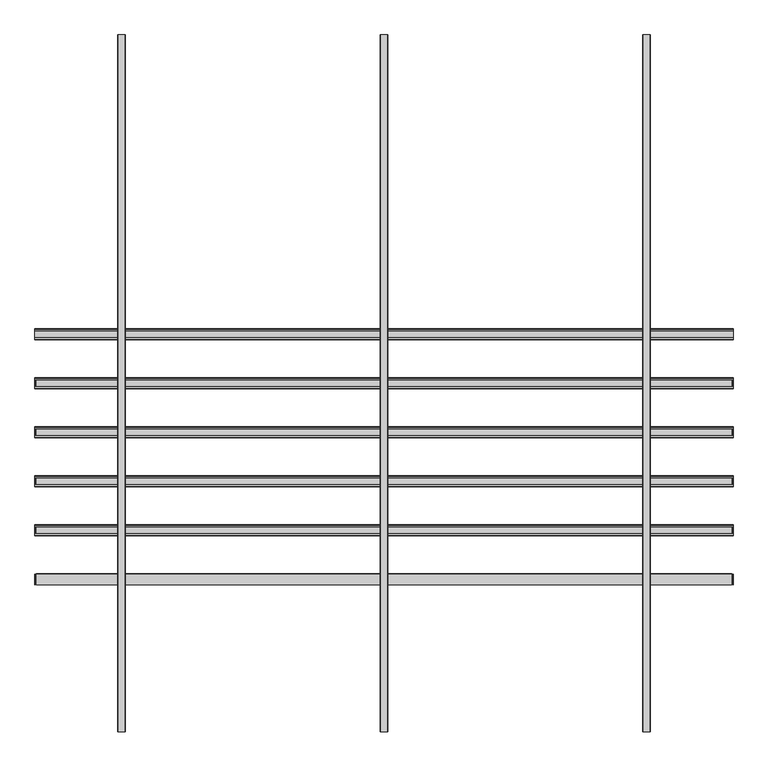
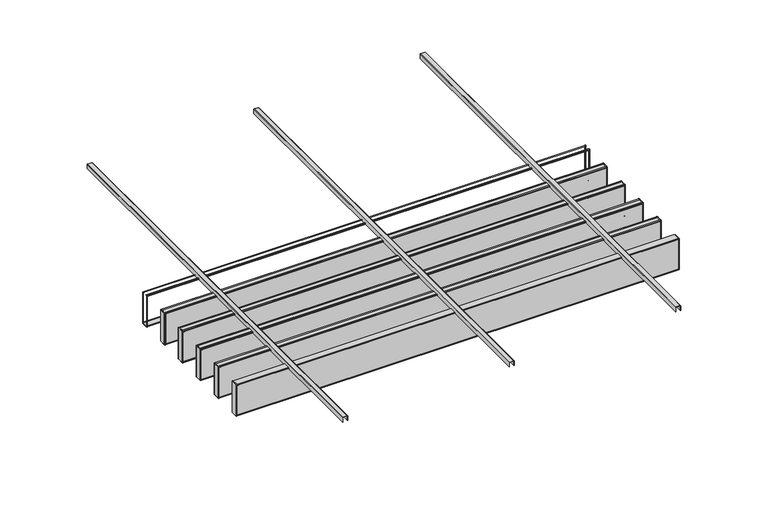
"""IFC4 building model written with IfcOpenShell, lengths in millimetres: proxy geometry, durlum_POLYLAM : durlum_POLYLAM 63 RV-L6."""

from ifc_helpers import new_model, si_unit, point, frame, frame_2d, origin, place, context, project, spatial, polyline, circle_curve, trimmed, segment, composite_curve, outline, extrude, source, transform, mapped, element, save
from ifc_brep_helpers import plane_surface, cylinder_surface, advanced_brep


def generic_models_e9b2db04(model_context):
    return source(origin(), model_context, "Body", "SolidModel", [
        advanced_brep(
        [(1995.0, 309.5, 2016.9), (1995.0, 299.5, 2016.9), (1995.0, 299.5, 2015.9), (1995.0, 310.5, 2015.9), (1995.0, 310.5, 1717.9), (1995.0, 249.5, 1717.9), (1995.0, 249.5, 2015.8155735), (1995.0, 260.5, 2015.8155735), (1995.0, 260.5, 2016.9), (1995.0, 250.5, 2016.9), (1995.0, 248.5, 2014.9), (1995.0, 248.5, 1718.9), (1995.0, 250.5, 1716.9), (1995.0, 309.5, 1716.9), (1995.0, 311.5, 1718.9), (1995.0, 311.5, 2014.9), (-1995.0, 309.5, 2016.9), (-1995.0, 311.5, 2014.9), (-1995.0, 311.5, 1718.9), (-1995.0, 309.5, 1716.9), (-1995.0, 250.5, 1716.9), (-1995.0, 248.5, 1718.9), (-1995.0, 248.5, 2014.9), (-1995.0, 250.5, 2016.9), (-1995.0, 260.5, 2016.9), (-1995.0, 260.5, 2015.8155735), (-1995.0, 249.5, 2015.8155735), (-1995.0, 249.5, 1717.9), (-1995.0, 310.5, 1717.9), (-1995.0, 310.5, 2015.9), (-1995.0, 299.5, 2015.9), (-1995.0, 299.5, 2016.9), (-1986.5, 310.5, 2008.4), (1986.5, 310.5, 2008.4), (1986.5, 310.5, 1725.4), (-1986.5, 310.5, 1725.4), (1986.5, 249.5, 2008.4), (-1986.5, 249.5, 2008.4), (-1986.5, 249.5, 1725.4), (1986.5, 249.5, 1725.4), (-1986.5, 248.5, 2008.4), (1986.5, 248.5, 2008.4), (1986.5, 248.5, 1725.4), (-1986.5, 248.5, 1725.4), (1986.5, 311.5, 2008.4), (-1986.5, 311.5, 2008.4), (-1986.5, 311.5, 1725.4), (1986.5, 311.5, 1725.4)],
        [
            (0, 1),
            (1, 2),
            (2, 3),
            (3, 4),
            (4, 5),
            (5, 6),
            (6, 7),
            (7, 8),
            (8, 9),
            (9, 10, circle_curve(frame((1995.0, 250.5, 2014.9), z_axis=(1.0, 0.0, 0.0), x_axis=(0.0, 1.0, 0.0)), 2.0)),
            (10, 11),
            (11, 12, circle_curve(frame((1995.0, 250.5, 1718.9), z_axis=(1.0, 0.0, 0.0), x_axis=(0.0, 1.0, 0.0)), 2.0)),
            (12, 13),
            (13, 14, circle_curve(frame((1995.0, 309.5, 1718.9), z_axis=(1.0, 0.0, 0.0), x_axis=(0.0, 1.0, 0.0)), 2.0)),
            (14, 15),
            (15, 0, circle_curve(frame((1995.0, 309.5, 2014.9), z_axis=(1.0, 0.0, 0.0), x_axis=(0.0, 1.0, 0.0)), 2.0)),
            (16, 17, circle_curve(frame((-1995.0, 309.5, 2014.9), z_axis=(-1.0, 0.0, 0.0), x_axis=(0.0, 1.0, 0.0)), 2.0)),
            (17, 18),
            (18, 19, circle_curve(frame((-1995.0, 309.5, 1718.9), z_axis=(-1.0, 0.0, 0.0), x_axis=(0.0, 1.0, 0.0)), 2.0)),
            (19, 20),
            (20, 21, circle_curve(frame((-1995.0, 250.5, 1718.9), z_axis=(-1.0, 0.0, 0.0), x_axis=(0.0, 1.0, 0.0)), 2.0)),
            (21, 22),
            (22, 23, circle_curve(frame((-1995.0, 250.5, 2014.9), z_axis=(-1.0, 0.0, 0.0), x_axis=(0.0, 1.0, 0.0)), 2.0)),
            (23, 24),
            (24, 25),
            (25, 26),
            (26, 27),
            (27, 28),
            (28, 29),
            (29, 30),
            (30, 31),
            (31, 16),
            (0, 16),
            (31, 1),
            (30, 2),
            (29, 3),
            (28, 4),
            (32, 33),
            (33, 34),
            (34, 35),
            (35, 32),
            (27, 5),
            (26, 6),
            (36, 37),
            (37, 38),
            (38, 39),
            (39, 36),
            (25, 7),
            (24, 8),
            (23, 9),
            (10, 22),
            (21, 11),
            (40, 41),
            (41, 42),
            (42, 43),
            (43, 40),
            (12, 20),
            (19, 13),
            (14, 18),
            (17, 15),
            (44, 45),
            (45, 46),
            (46, 47),
            (47, 44),
            (44, 33),
            (32, 45),
            (36, 41),
            (40, 37),
            (35, 46),
            (43, 38),
            (34, 47),
            (42, 39),
        ],
        [
            plane_surface(frame((1995.0, 299.5, 2016.9), z_axis=(1.0, 0.0, 0.0), x_axis=(0.0, -1.0, 0.0))),
            plane_surface(frame((-1995.0, 299.5, 2016.9), z_axis=(-1.0, 0.0, 0.0), x_axis=(0.0, 1.0, 0.0))),
            plane_surface(frame((1995.0, 309.5, 2016.9), z_axis=(0.0, 0.0, 1.0), x_axis=(-1.0, 0.0, 0.0))),
            plane_surface(frame((1995.0, 299.5, 2016.9), z_axis=(0.0, -1.0, 0.0), x_axis=(-1.0, 0.0, 0.0))),
            plane_surface(frame((1995.0, 299.5, 2015.9), z_axis=(0.0, 0.0, -1.0), x_axis=(-1.0, 0.0, 0.0))),
            plane_surface(frame((1995.0, 310.5, 2015.9), z_axis=(0.0, -1.0, 0.0), x_axis=(-1.0, 0.0, 0.0))),
            plane_surface(frame((1995.0, 310.5, 1717.9), z_axis=(0.0, 0.0, 1.0), x_axis=(-1.0, 0.0, 0.0))),
            plane_surface(frame((1995.0, 249.5, 1717.9), z_axis=(0.0, 1.0, 0.0), x_axis=(-1.0, 0.0, 0.0))),
            plane_surface(frame((1995.0, 249.5, 2015.8155735), z_axis=(0.0, 0.0, -1.0), x_axis=(-1.0, 0.0, 0.0))),
            plane_surface(frame((1995.0, 260.5, 2015.8155735), z_axis=(0.0, 1.0, 0.0), x_axis=(-1.0, 0.0, 0.0))),
            plane_surface(frame((1995.0, 260.5, 2016.9), z_axis=(0.0, 0.0, 1.0), x_axis=(-1.0, 0.0, 0.0))),
            plane_surface(frame((1995.0, 248.5, 2014.9), z_axis=(0.0, -1.0, 0.0), x_axis=(-1.0, 0.0, 0.0))),
            plane_surface(frame((1995.0, 250.5, 1716.9), z_axis=(0.0, 0.0, -1.0), x_axis=(-1.0, 0.0, 0.0))),
            plane_surface(frame((1995.0, 311.5, 1718.9), z_axis=(0.0, 1.0, 0.0), x_axis=(-1.0, 0.0, 0.0))),
            cylinder_surface(frame((-1995.0, 250.5, 2014.9), z_axis=(1.0, 0.0, 0.0), x_axis=(0.0, 1.0, 0.0)), 2.0),
            cylinder_surface(frame((-1995.0, 250.5, 1718.9), z_axis=(1.0, 0.0, 0.0), x_axis=(0.0, 1.0, 0.0)), 2.0),
            cylinder_surface(frame((-1995.0, 309.5, 1718.9), z_axis=(1.0, 0.0, 0.0), x_axis=(0.0, 1.0, 0.0)), 2.0),
            cylinder_surface(frame((-1995.0, 309.5, 2014.9), z_axis=(1.0, 0.0, 0.0), x_axis=(0.0, 1.0, 0.0)), 2.0),
            plane_surface(frame((1986.5, 248.5, 2008.4), z_axis=(0.0, 0.0, -1.0), x_axis=(0.0, 1.0, 0.0))),
            plane_surface(frame((-1986.5, 248.5, 2008.4), z_axis=(1.0, 0.0, 0.0), x_axis=(0.0, 1.0, 0.0))),
            plane_surface(frame((-1986.5, 248.5, 1725.4), z_axis=(0.0, 0.0, 1.0), x_axis=(0.0, 1.0, 0.0))),
            plane_surface(frame((1986.5, 248.5, 1725.4), z_axis=(-1.0, 0.0, 0.0), x_axis=(0.0, 1.0, 0.0))),
        ],
        [
            (0, [[1, 2, 3, 4, 5, 6, 7, 8, 9, 10, 11, 12, 13, 14, 15, 16]]),
            (1, [[17, 18, 19, 20, 21, 22, 23, 24, 25, 26, 27, 28, 29, 30, 31, 32]]),
            (2, [[-1, 33, -32, 34]]),
            (3, [[-2, -34, -31, 35]]),
            (4, [[-3, -35, -30, 36]]),
            (5, [[-4, -36, -29, 37], [38, 39, 40, 41]]),
            (6, [[-5, -37, -28, 42]]),
            (7, [[-6, -42, -27, 43], [44, 45, 46, 47]]),
            (8, [[-7, -43, -26, 48]]),
            (9, [[-8, -48, -25, 49]]),
            (10, [[-9, -49, -24, 50]]),
            (11, [[-11, 51, -22, 52], [53, 54, 55, 56]]),
            (12, [[-13, 57, -20, 58]]),
            (13, [[-15, 59, -18, 60], [61, 62, 63, 64]]),
            (14, [[-10, -50, -23, -51]]),
            (15, [[-12, -52, -21, -57]]),
            (16, [[-14, -58, -19, -59]]),
            (17, [[-16, -60, -17, -33]]),
            (18, [[65, -38, 66, -61]]),
            (18, [[67, -53, 68, -44]]),
            (19, [[-66, -41, 69, -62]]),
            (19, [[-68, -56, 70, -45]]),
            (20, [[-69, -40, 71, -63]]),
            (20, [[-70, -55, 72, -46]]),
            (21, [[-65, -64, -71, -39]]),
            (21, [[-67, -47, -72, -54]]),
        ],
    ),
        extrude(outline(composite_curve([segment(polyline([(2005.0, 22.5), (2047.0, 22.5)]), True, "CONTINUOUS"), segment(trimmed(circle_curve(frame_2d((2047.0, 19.5)), 3.0), [point((2047.0, 22.5))], [point((2050.0, 19.5))], False, "CARTESIAN"), True, "CONTINUOUS"), segment(polyline([(2050.0, 19.5), (2050.0, -19.5)]), True, "CONTINUOUS"), segment(trimmed(circle_curve(frame_2d((2047.0, -19.5)), 3.0), [point((2050.0, -19.5))], [point((2047.0, -22.5))], False, "CARTESIAN"), True, "CONTINUOUS"), segment(polyline([(2047.0, -22.5), (2005.0, -22.5), (2005.0, -21.0), (2047.0, -21.0)]), True, "CONTINUOUS"), segment(trimmed(circle_curve(frame_2d((2047.0, -19.5)), 1.5), [point((2047.0, -21.0))], [point((2048.5, -19.5))], True, "CARTESIAN"), True, "CONTINUOUS"), segment(polyline([(2048.5, -19.5), (2048.5, 19.5)]), True, "CONTINUOUS"), segment(trimmed(circle_curve(frame_2d((2047.0, 19.5)), 1.5), [point((2048.5, 19.5))], [point((2047.0, 21.0))], True, "CARTESIAN"), True, "CONTINUOUS"), segment(polyline([(2047.0, 21.0), (2005.0, 21.0), (2005.0, 22.5)]), True, "CONTINUOUS")], self_intersect=False)), frame((0.0, -1991.5, 0.0), z_axis=(0.0, 1.0, 0.0), x_axis=(0.0, 0.0, 1.0)), (0.0, 0.0, 1.0), 3983.0),
        extrude(outline(composite_curve([segment(polyline([(2005.0, -1477.5), (2047.0, -1477.5)]), True, "CONTINUOUS"), segment(trimmed(circle_curve(frame_2d((2047.0, -1480.5)), 3.0), [point((2047.0, -1477.5))], [point((2050.0, -1480.5))], False, "CARTESIAN"), True, "CONTINUOUS"), segment(polyline([(2050.0, -1480.5), (2050.0, -1519.5)]), True, "CONTINUOUS"), segment(trimmed(circle_curve(frame_2d((2047.0, -1519.5)), 3.0), [point((2050.0, -1519.5))], [point((2047.0, -1522.5))], False, "CARTESIAN"), True, "CONTINUOUS"), segment(polyline([(2047.0, -1522.5), (2005.0, -1522.5), (2005.0, -1521.0), (2047.0, -1521.0)]), True, "CONTINUOUS"), segment(trimmed(circle_curve(frame_2d((2047.0, -1519.5)), 1.5), [point((2047.0, -1521.0))], [point((2048.5, -1519.5))], True, "CARTESIAN"), True, "CONTINUOUS"), segment(polyline([(2048.5, -1519.5), (2048.5, -1480.5)]), True, "CONTINUOUS"), segment(trimmed(circle_curve(frame_2d((2047.0, -1480.5)), 1.5), [point((2048.5, -1480.5))], [point((2047.0, -1479.0))], True, "CARTESIAN"), True, "CONTINUOUS"), segment(polyline([(2047.0, -1479.0), (2005.0, -1479.0), (2005.0, -1477.5)]), True, "CONTINUOUS")], self_intersect=False)), frame((0.0, -1991.5, 0.0), z_axis=(0.0, 1.0, 0.0), x_axis=(0.0, 0.0, 1.0)), (0.0, 0.0, 1.0), 3983.0),
        extrude(outline(composite_curve([segment(polyline([(2005.0, 1522.5), (2047.0, 1522.5)]), True, "CONTINUOUS"), segment(trimmed(circle_curve(frame_2d((2047.0, 1519.5)), 3.0), [point((2047.0, 1522.5))], [point((2050.0, 1519.5))], False, "CARTESIAN"), True, "CONTINUOUS"), segment(polyline([(2050.0, 1519.5), (2050.0, 1480.5)]), True, "CONTINUOUS"), segment(trimmed(circle_curve(frame_2d((2047.0, 1480.5)), 3.0), [point((2050.0, 1480.5))], [point((2047.0, 1477.5))], False, "CARTESIAN"), True, "CONTINUOUS"), segment(polyline([(2047.0, 1477.5), (2005.0, 1477.5), (2005.0, 1479.0), (2047.0, 1479.0)]), True, "CONTINUOUS"), segment(trimmed(circle_curve(frame_2d((2047.0, 1480.5)), 1.5), [point((2047.0, 1479.0))], [point((2048.5, 1480.5))], True, "CARTESIAN"), True, "CONTINUOUS"), segment(polyline([(2048.5, 1480.5), (2048.5, 1519.5)]), True, "CONTINUOUS"), segment(trimmed(circle_curve(frame_2d((2047.0, 1519.5)), 1.5), [point((2048.5, 1519.5))], [point((2047.0, 1521.0))], True, "CARTESIAN"), True, "CONTINUOUS"), segment(polyline([(2047.0, 1521.0), (2005.0, 1521.0), (2005.0, 1522.5)]), True, "CONTINUOUS")], self_intersect=False)), frame((0.0, -1991.5, 0.0), z_axis=(0.0, 1.0, 0.0), x_axis=(0.0, 0.0, 1.0)), (0.0, 0.0, 1.0), 3983.0),
        extrude(outline(polyline([(1993.0, 30.5), (1995.0, 30.5), (1995.0, -30.5), (1993.0, -30.5), (1993.0, 30.5)])), frame((0.0, 0.0, 1717.9), z_axis=(0.0, 0.0, 1.0), x_axis=(1.0, 0.0, 0.0)), (0.0, 0.0, 1.0), 298.0),
        extrude(outline(polyline([(-1995.0, 30.5), (-1993.0, 30.5), (-1993.0, -30.5), (-1995.0, -30.5), (-1995.0, 30.5)])), frame((0.0, 0.0, 1717.9), z_axis=(0.0, 0.0, 1.0), x_axis=(1.0, 0.0, 0.0)), (0.0, 0.0, 1.0), 298.0),
        extrude(outline(polyline([(1986.5, 30.5), (1986.5, -30.5), (-1986.5, -30.5), (-1986.5, 30.5), (1986.5, 30.5)])), frame((0.0, 0.0, 1717.9), z_axis=(0.0, 0.0, 1.0), x_axis=(1.0, 0.0, 0.0)), (0.0, 0.0, 1.0), 298.0),
        extrude(outline(polyline([(1986.5, 30.5), (-1986.5, 30.5), (-1986.5, 31.5), (1986.5, 31.5), (1986.5, 30.5)])), frame((0.0, 0.0, 1725.4), z_axis=(0.0, 0.0, 1.0), x_axis=(1.0, 0.0, 0.0)), (0.0, 0.0, 1.0), 283.0),
        extrude(outline(polyline([(1986.5, -31.5), (-1986.5, -31.5), (-1986.5, -30.5), (1986.5, -30.5), (1986.5, -31.5)])), frame((0.0, 0.0, 1725.4), z_axis=(0.0, 0.0, 1.0), x_axis=(1.0, 0.0, 0.0)), (0.0, 0.0, 1.0), 283.0),
        advanced_brep(
        [(1995.0, 29.5, 2016.9), (1995.0, 19.5, 2016.9), (1995.0, 19.5, 2015.9), (1995.0, 30.5, 2015.9), (1995.0, 30.5, 1717.9), (1995.0, -30.5, 1717.9), (1995.0, -30.5, 2015.8155735), (1995.0, -19.5, 2015.8155735), (1995.0, -19.5, 2016.9), (1995.0, -29.5, 2016.9), (1995.0, -31.5, 2014.9), (1995.0, -31.5, 1718.9), (1995.0, -29.5, 1716.9), (1995.0, 29.5, 1716.9), (1995.0, 31.5, 1718.9), (1995.0, 31.5, 2014.9), (-1995.0, 29.5, 2016.9), (-1995.0, 31.5, 2014.9), (-1995.0, 31.5, 1718.9), (-1995.0, 29.5, 1716.9), (-1995.0, -29.5, 1716.9), (-1995.0, -31.5, 1718.9), (-1995.0, -31.5, 2014.9), (-1995.0, -29.5, 2016.9), (-1995.0, -19.5, 2016.9), (-1995.0, -19.5, 2015.8155735), (-1995.0, -30.5, 2015.8155735), (-1995.0, -30.5, 1717.9), (-1995.0, 30.5, 1717.9), (-1995.0, 30.5, 2015.9), (-1995.0, 19.5, 2015.9), (-1995.0, 19.5, 2016.9), (-1986.5, 30.5, 2008.4), (1986.5, 30.5, 2008.4), (1986.5, 30.5, 1725.4), (-1986.5, 30.5, 1725.4), (1986.5, -30.5, 2008.4), (-1986.5, -30.5, 2008.4), (-1986.5, -30.5, 1725.4), (1986.5, -30.5, 1725.4), (-1986.5, -31.5, 2008.4), (1986.5, -31.5, 2008.4), (1986.5, -31.5, 1725.4), (-1986.5, -31.5, 1725.4), (1986.5, 31.5, 2008.4), (-1986.5, 31.5, 2008.4), (-1986.5, 31.5, 1725.4), (1986.5, 31.5, 1725.4)],
        [
            (0, 1),
            (1, 2),
            (2, 3),
            (3, 4),
            (4, 5),
            (5, 6),
            (6, 7),
            (7, 8),
            (8, 9),
            (9, 10, circle_curve(frame((1995.0, -29.5, 2014.9), z_axis=(1.0, 0.0, 0.0), x_axis=(0.0, 1.0, 0.0)), 2.0)),
            (10, 11),
            (11, 12, circle_curve(frame((1995.0, -29.5, 1718.9), z_axis=(1.0, 0.0, 0.0), x_axis=(0.0, 1.0, 0.0)), 2.0)),
            (12, 13),
            (13, 14, circle_curve(frame((1995.0, 29.5, 1718.9), z_axis=(1.0, 0.0, 0.0), x_axis=(0.0, 1.0, 0.0)), 2.0)),
            (14, 15),
            (15, 0, circle_curve(frame((1995.0, 29.5, 2014.9), z_axis=(1.0, 0.0, 0.0), x_axis=(0.0, 1.0, 0.0)), 2.0)),
            (16, 17, circle_curve(frame((-1995.0, 29.5, 2014.9), z_axis=(-1.0, 0.0, 0.0), x_axis=(0.0, 1.0, 0.0)), 2.0)),
            (17, 18),
            (18, 19, circle_curve(frame((-1995.0, 29.5, 1718.9), z_axis=(-1.0, 0.0, 0.0), x_axis=(0.0, 1.0, 0.0)), 2.0)),
            (19, 20),
            (20, 21, circle_curve(frame((-1995.0, -29.5, 1718.9), z_axis=(-1.0, 0.0, 0.0), x_axis=(0.0, 1.0, 0.0)), 2.0)),
            (21, 22),
            (22, 23, circle_curve(frame((-1995.0, -29.5, 2014.9), z_axis=(-1.0, 0.0, 0.0), x_axis=(0.0, 1.0, 0.0)), 2.0)),
            (23, 24),
            (24, 25),
            (25, 26),
            (26, 27),
            (27, 28),
            (28, 29),
            (29, 30),
            (30, 31),
            (31, 16),
            (0, 16),
            (31, 1),
            (30, 2),
            (29, 3),
            (28, 4),
            (32, 33),
            (33, 34),
            (34, 35),
            (35, 32),
            (27, 5),
            (26, 6),
            (36, 37),
            (37, 38),
            (38, 39),
            (39, 36),
            (25, 7),
            (24, 8),
            (23, 9),
            (10, 22),
            (21, 11),
            (40, 41),
            (41, 42),
            (42, 43),
            (43, 40),
            (12, 20),
            (19, 13),
            (14, 18),
            (17, 15),
            (44, 45),
            (45, 46),
            (46, 47),
            (47, 44),
            (44, 33),
            (32, 45),
            (36, 41),
            (40, 37),
            (35, 46),
            (43, 38),
            (34, 47),
            (42, 39),
        ],
        [
            plane_surface(frame((1995.0, 19.5, 2016.9), z_axis=(1.0, 0.0, 0.0), x_axis=(0.0, -1.0, 0.0))),
            plane_surface(frame((-1995.0, 19.5, 2016.9), z_axis=(-1.0, 0.0, 0.0), x_axis=(0.0, 1.0, 0.0))),
            plane_surface(frame((1995.0, 29.5, 2016.9), z_axis=(0.0, 0.0, 1.0), x_axis=(-1.0, 0.0, 0.0))),
            plane_surface(frame((1995.0, 19.5, 2016.9), z_axis=(0.0, -1.0, 0.0), x_axis=(-1.0, 0.0, 0.0))),
            plane_surface(frame((1995.0, 19.5, 2015.9), z_axis=(0.0, 0.0, -1.0), x_axis=(-1.0, 0.0, 0.0))),
            plane_surface(frame((1995.0, 30.5, 2015.9), z_axis=(0.0, -1.0, 0.0), x_axis=(-1.0, 0.0, 0.0))),
            plane_surface(frame((1995.0, 30.5, 1717.9), z_axis=(0.0, 0.0, 1.0), x_axis=(-1.0, 0.0, 0.0))),
            plane_surface(frame((1995.0, -30.5, 1717.9), z_axis=(0.0, 1.0, 0.0), x_axis=(-1.0, 0.0, 0.0))),
            plane_surface(frame((1995.0, -30.5, 2015.8155735), z_axis=(0.0, 0.0, -1.0), x_axis=(-1.0, 0.0, 0.0))),
            plane_surface(frame((1995.0, -19.5, 2015.8155735), z_axis=(0.0, 1.0, 0.0), x_axis=(-1.0, 0.0, 0.0))),
            plane_surface(frame((1995.0, -19.5, 2016.9), z_axis=(0.0, 0.0, 1.0), x_axis=(-1.0, 0.0, 0.0))),
            plane_surface(frame((1995.0, -31.5, 2014.9), z_axis=(0.0, -1.0, 0.0), x_axis=(-1.0, 0.0, 0.0))),
            plane_surface(frame((1995.0, -29.5, 1716.9), z_axis=(0.0, 0.0, -1.0), x_axis=(-1.0, 0.0, 0.0))),
            plane_surface(frame((1995.0, 31.5, 1718.9), z_axis=(0.0, 1.0, 0.0), x_axis=(-1.0, 0.0, 0.0))),
            cylinder_surface(frame((-1995.0, -29.5, 2014.9), z_axis=(1.0, 0.0, 0.0), x_axis=(0.0, 1.0, 0.0)), 2.0),
            cylinder_surface(frame((-1995.0, -29.5, 1718.9), z_axis=(1.0, 0.0, 0.0), x_axis=(0.0, 1.0, 0.0)), 2.0),
            cylinder_surface(frame((-1995.0, 29.5, 1718.9), z_axis=(1.0, 0.0, 0.0), x_axis=(0.0, 1.0, 0.0)), 2.0),
            cylinder_surface(frame((-1995.0, 29.5, 2014.9), z_axis=(1.0, 0.0, 0.0), x_axis=(0.0, 1.0, 0.0)), 2.0),
            plane_surface(frame((1986.5, -31.5, 2008.4), z_axis=(0.0, 0.0, -1.0), x_axis=(0.0, 1.0, 0.0))),
            plane_surface(frame((-1986.5, -31.5, 2008.4), z_axis=(1.0, 0.0, 0.0), x_axis=(0.0, 1.0, 0.0))),
            plane_surface(frame((-1986.5, -31.5, 1725.4), z_axis=(0.0, 0.0, 1.0), x_axis=(0.0, 1.0, 0.0))),
            plane_surface(frame((1986.5, -31.5, 1725.4), z_axis=(-1.0, 0.0, 0.0), x_axis=(0.0, 1.0, 0.0))),
        ],
        [
            (0, [[1, 2, 3, 4, 5, 6, 7, 8, 9, 10, 11, 12, 13, 14, 15, 16]]),
            (1, [[17, 18, 19, 20, 21, 22, 23, 24, 25, 26, 27, 28, 29, 30, 31, 32]]),
            (2, [[-1, 33, -32, 34]]),
            (3, [[-2, -34, -31, 35]]),
            (4, [[-3, -35, -30, 36]]),
            (5, [[-4, -36, -29, 37], [38, 39, 40, 41]]),
            (6, [[-5, -37, -28, 42]]),
            (7, [[-6, -42, -27, 43], [44, 45, 46, 47]]),
            (8, [[-7, -43, -26, 48]]),
            (9, [[-8, -48, -25, 49]]),
            (10, [[-9, -49, -24, 50]]),
            (11, [[-11, 51, -22, 52], [53, 54, 55, 56]]),
            (12, [[-13, 57, -20, 58]]),
            (13, [[-15, 59, -18, 60], [61, 62, 63, 64]]),
            (14, [[-10, -50, -23, -51]]),
            (15, [[-12, -52, -21, -57]]),
            (16, [[-14, -58, -19, -59]]),
            (17, [[-16, -60, -17, -33]]),
            (18, [[65, -38, 66, -61]]),
            (18, [[67, -53, 68, -44]]),
            (19, [[-66, -41, 69, -62]]),
            (19, [[-68, -56, 70, -45]]),
            (20, [[-69, -40, 71, -63]]),
            (20, [[-70, -55, 72, -46]]),
            (21, [[-65, -64, -71, -39]]),
            (21, [[-67, -47, -72, -54]]),
        ],
    ),
        extrude(outline(polyline([(1993.0, -249.5), (1995.0, -249.5), (1995.0, -310.5), (1993.0, -310.5), (1993.0, -249.5)])), frame((0.0, 0.0, 1717.9), z_axis=(0.0, 0.0, 1.0), x_axis=(1.0, 0.0, 0.0)), (0.0, 0.0, 1.0), 298.0),
        extrude(outline(polyline([(-1995.0, -249.5), (-1993.0, -249.5), (-1993.0, -310.5), (-1995.0, -310.5), (-1995.0, -249.5)])), frame((0.0, 0.0, 1717.9), z_axis=(0.0, 0.0, 1.0), x_axis=(1.0, 0.0, 0.0)), (0.0, 0.0, 1.0), 298.0),
        extrude(outline(polyline([(1986.5, -249.5), (1986.5, -310.5), (-1986.5, -310.5), (-1986.5, -249.5), (1986.5, -249.5)])), frame((0.0, 0.0, 1717.9), z_axis=(0.0, 0.0, 1.0), x_axis=(1.0, 0.0, 0.0)), (0.0, 0.0, 1.0), 298.0),
        extrude(outline(polyline([(1986.5, -249.5), (-1986.5, -249.5), (-1986.5, -248.5), (1986.5, -248.5), (1986.5, -249.5)])), frame((0.0, 0.0, 1725.4), z_axis=(0.0, 0.0, 1.0), x_axis=(1.0, 0.0, 0.0)), (0.0, 0.0, 1.0), 283.0),
        extrude(outline(polyline([(1986.5, -311.5), (-1986.5, -311.5), (-1986.5, -310.5), (1986.5, -310.5), (1986.5, -311.5)])), frame((0.0, 0.0, 1725.4), z_axis=(0.0, 0.0, 1.0), x_axis=(1.0, 0.0, 0.0)), (0.0, 0.0, 1.0), 283.0),
        advanced_brep(
        [(1995.0, -250.5, 2016.9), (1995.0, -260.5, 2016.9), (1995.0, -260.5, 2015.9), (1995.0, -249.5, 2015.9), (1995.0, -249.5, 1717.9), (1995.0, -310.5, 1717.9), (1995.0, -310.5, 2015.8155735), (1995.0, -299.5, 2015.8155735), (1995.0, -299.5, 2016.9), (1995.0, -309.5, 2016.9), (1995.0, -311.5, 2014.9), (1995.0, -311.5, 1718.9), (1995.0, -309.5, 1716.9), (1995.0, -250.5, 1716.9), (1995.0, -248.5, 1718.9), (1995.0, -248.5, 2014.9), (-1995.0, -250.5, 2016.9), (-1995.0, -248.5, 2014.9), (-1995.0, -248.5, 1718.9), (-1995.0, -250.5, 1716.9), (-1995.0, -309.5, 1716.9), (-1995.0, -311.5, 1718.9), (-1995.0, -311.5, 2014.9), (-1995.0, -309.5, 2016.9), (-1995.0, -299.5, 2016.9), (-1995.0, -299.5, 2015.8155735), (-1995.0, -310.5, 2015.8155735), (-1995.0, -310.5, 1717.9), (-1995.0, -249.5, 1717.9), (-1995.0, -249.5, 2015.9), (-1995.0, -260.5, 2015.9), (-1995.0, -260.5, 2016.9), (-1986.5, -249.5, 2008.4), (1986.5, -249.5, 2008.4), (1986.5, -249.5, 1725.4), (-1986.5, -249.5, 1725.4), (1986.5, -310.5, 2008.4), (-1986.5, -310.5, 2008.4), (-1986.5, -310.5, 1725.4), (1986.5, -310.5, 1725.4), (-1986.5, -311.5, 2008.4), (1986.5, -311.5, 2008.4), (1986.5, -311.5, 1725.4), (-1986.5, -311.5, 1725.4), (1986.5, -248.5, 2008.4), (-1986.5, -248.5, 2008.4), (-1986.5, -248.5, 1725.4), (1986.5, -248.5, 1725.4)],
        [
            (0, 1),
            (1, 2),
            (2, 3),
            (3, 4),
            (4, 5),
            (5, 6),
            (6, 7),
            (7, 8),
            (8, 9),
            (9, 10, circle_curve(frame((1995.0, -309.5, 2014.9), z_axis=(1.0, 0.0, 0.0), x_axis=(0.0, 1.0, 0.0)), 2.0)),
            (10, 11),
            (11, 12, circle_curve(frame((1995.0, -309.5, 1718.9), z_axis=(1.0, 0.0, 0.0), x_axis=(0.0, 1.0, 0.0)), 2.0)),
            (12, 13),
            (13, 14, circle_curve(frame((1995.0, -250.5, 1718.9), z_axis=(1.0, 0.0, 0.0), x_axis=(0.0, 1.0, 0.0)), 2.0)),
            (14, 15),
            (15, 0, circle_curve(frame((1995.0, -250.5, 2014.9), z_axis=(1.0, 0.0, 0.0), x_axis=(0.0, 1.0, 0.0)), 2.0)),
            (16, 17, circle_curve(frame((-1995.0, -250.5, 2014.9), z_axis=(-1.0, 0.0, 0.0), x_axis=(0.0, 1.0, 0.0)), 2.0)),
            (17, 18),
            (18, 19, circle_curve(frame((-1995.0, -250.5, 1718.9), z_axis=(-1.0, 0.0, 0.0), x_axis=(0.0, 1.0, 0.0)), 2.0)),
            (19, 20),
            (20, 21, circle_curve(frame((-1995.0, -309.5, 1718.9), z_axis=(-1.0, 0.0, 0.0), x_axis=(0.0, 1.0, 0.0)), 2.0)),
            (21, 22),
            (22, 23, circle_curve(frame((-1995.0, -309.5, 2014.9), z_axis=(-1.0, 0.0, 0.0), x_axis=(0.0, 1.0, 0.0)), 2.0)),
            (23, 24),
            (24, 25),
            (25, 26),
            (26, 27),
            (27, 28),
            (28, 29),
            (29, 30),
            (30, 31),
            (31, 16),
            (0, 16),
            (31, 1),
            (30, 2),
            (29, 3),
            (28, 4),
            (32, 33),
            (33, 34),
            (34, 35),
            (35, 32),
            (27, 5),
            (26, 6),
            (36, 37),
            (37, 38),
            (38, 39),
            (39, 36),
            (25, 7),
            (24, 8),
            (23, 9),
            (10, 22),
            (21, 11),
            (40, 41),
            (41, 42),
            (42, 43),
            (43, 40),
            (12, 20),
            (19, 13),
            (14, 18),
            (17, 15),
            (44, 45),
            (45, 46),
            (46, 47),
            (47, 44),
            (44, 33),
            (32, 45),
            (36, 41),
            (40, 37),
            (35, 46),
            (43, 38),
            (34, 47),
            (42, 39),
        ],
        [
            plane_surface(frame((1995.0, -260.5, 2016.9), z_axis=(1.0, 0.0, 0.0), x_axis=(0.0, -1.0, 0.0))),
            plane_surface(frame((-1995.0, -260.5, 2016.9), z_axis=(-1.0, 0.0, 0.0), x_axis=(0.0, 1.0, 0.0))),
            plane_surface(frame((1995.0, -250.5, 2016.9), z_axis=(0.0, 0.0, 1.0), x_axis=(-1.0, 0.0, 0.0))),
            plane_surface(frame((1995.0, -260.5, 2016.9), z_axis=(0.0, -1.0, 0.0), x_axis=(-1.0, 0.0, 0.0))),
            plane_surface(frame((1995.0, -260.5, 2015.9), z_axis=(0.0, 0.0, -1.0), x_axis=(-1.0, 0.0, 0.0))),
            plane_surface(frame((1995.0, -249.5, 2015.9), z_axis=(0.0, -1.0, 0.0), x_axis=(-1.0, 0.0, 0.0))),
            plane_surface(frame((1995.0, -249.5, 1717.9), z_axis=(0.0, 0.0, 1.0), x_axis=(-1.0, 0.0, 0.0))),
            plane_surface(frame((1995.0, -310.5, 1717.9), z_axis=(0.0, 1.0, 0.0), x_axis=(-1.0, 0.0, 0.0))),
            plane_surface(frame((1995.0, -310.5, 2015.8155735), z_axis=(0.0, 0.0, -1.0), x_axis=(-1.0, 0.0, 0.0))),
            plane_surface(frame((1995.0, -299.5, 2015.8155735), z_axis=(0.0, 1.0, 0.0), x_axis=(-1.0, 0.0, 0.0))),
            plane_surface(frame((1995.0, -299.5, 2016.9), z_axis=(0.0, 0.0, 1.0), x_axis=(-1.0, 0.0, 0.0))),
            plane_surface(frame((1995.0, -311.5, 2014.9), z_axis=(0.0, -1.0, 0.0), x_axis=(-1.0, 0.0, 0.0))),
            plane_surface(frame((1995.0, -309.5, 1716.9), z_axis=(0.0, 0.0, -1.0), x_axis=(-1.0, 0.0, 0.0))),
            plane_surface(frame((1995.0, -248.5, 1718.9), z_axis=(0.0, 1.0, 0.0), x_axis=(-1.0, 0.0, 0.0))),
            cylinder_surface(frame((-1995.0, -309.5, 2014.9), z_axis=(1.0, 0.0, 0.0), x_axis=(0.0, 1.0, 0.0)), 2.0),
            cylinder_surface(frame((-1995.0, -309.5, 1718.9), z_axis=(1.0, 0.0, 0.0), x_axis=(0.0, 1.0, 0.0)), 2.0),
            cylinder_surface(frame((-1995.0, -250.5, 1718.9), z_axis=(1.0, 0.0, 0.0), x_axis=(0.0, 1.0, 0.0)), 2.0),
            cylinder_surface(frame((-1995.0, -250.5, 2014.9), z_axis=(1.0, 0.0, 0.0), x_axis=(0.0, 1.0, 0.0)), 2.0),
            plane_surface(frame((1986.5, -311.5, 2008.4), z_axis=(0.0, 0.0, -1.0), x_axis=(0.0, 1.0, 0.0))),
            plane_surface(frame((-1986.5, -311.5, 2008.4), z_axis=(1.0, 0.0, 0.0), x_axis=(0.0, 1.0, 0.0))),
            plane_surface(frame((-1986.5, -311.5, 1725.4), z_axis=(0.0, 0.0, 1.0), x_axis=(0.0, 1.0, 0.0))),
            plane_surface(frame((1986.5, -311.5, 1725.4), z_axis=(-1.0, 0.0, 0.0), x_axis=(0.0, 1.0, 0.0))),
        ],
        [
            (0, [[1, 2, 3, 4, 5, 6, 7, 8, 9, 10, 11, 12, 13, 14, 15, 16]]),
            (1, [[17, 18, 19, 20, 21, 22, 23, 24, 25, 26, 27, 28, 29, 30, 31, 32]]),
            (2, [[-1, 33, -32, 34]]),
            (3, [[-2, -34, -31, 35]]),
            (4, [[-3, -35, -30, 36]]),
            (5, [[-4, -36, -29, 37], [38, 39, 40, 41]]),
            (6, [[-5, -37, -28, 42]]),
            (7, [[-6, -42, -27, 43], [44, 45, 46, 47]]),
            (8, [[-7, -43, -26, 48]]),
            (9, [[-8, -48, -25, 49]]),
            (10, [[-9, -49, -24, 50]]),
            (11, [[-11, 51, -22, 52], [53, 54, 55, 56]]),
            (12, [[-13, 57, -20, 58]]),
            (13, [[-15, 59, -18, 60], [61, 62, 63, 64]]),
            (14, [[-10, -50, -23, -51]]),
            (15, [[-12, -52, -21, -57]]),
            (16, [[-14, -58, -19, -59]]),
            (17, [[-16, -60, -17, -33]]),
            (18, [[65, -38, 66, -61]]),
            (18, [[67, -53, 68, -44]]),
            (19, [[-66, -41, 69, -62]]),
            (19, [[-68, -56, 70, -45]]),
            (20, [[-69, -40, 71, -63]]),
            (20, [[-70, -55, 72, -46]]),
            (21, [[-65, -64, -71, -39]]),
            (21, [[-67, -47, -72, -54]]),
        ],
    ),
        extrude(outline(polyline([(1993.0, -529.5), (1995.0, -529.5), (1995.0, -590.5), (1993.0, -590.5), (1993.0, -529.5)])), frame((0.0, 0.0, 1717.9), z_axis=(0.0, 0.0, 1.0), x_axis=(1.0, 0.0, 0.0)), (0.0, 0.0, 1.0), 298.0),
        extrude(outline(polyline([(-1995.0, -529.5), (-1993.0, -529.5), (-1993.0, -590.5), (-1995.0, -590.5), (-1995.0, -529.5)])), frame((0.0, 0.0, 1717.9), z_axis=(0.0, 0.0, 1.0), x_axis=(1.0, 0.0, 0.0)), (0.0, 0.0, 1.0), 298.0),
        extrude(outline(polyline([(1986.5, -529.5), (1986.5, -590.5), (-1986.5, -590.5), (-1986.5, -529.5), (1986.5, -529.5)])), frame((0.0, 0.0, 1717.9), z_axis=(0.0, 0.0, 1.0), x_axis=(1.0, 0.0, 0.0)), (0.0, 0.0, 1.0), 298.0),
        extrude(outline(polyline([(1986.5, -529.5), (-1986.5, -529.5), (-1986.5, -528.5), (1986.5, -528.5), (1986.5, -529.5)])), frame((0.0, 0.0, 1725.4), z_axis=(0.0, 0.0, 1.0), x_axis=(1.0, 0.0, 0.0)), (0.0, 0.0, 1.0), 283.0),
        extrude(outline(polyline([(1986.5, -591.5), (-1986.5, -591.5), (-1986.5, -590.5), (1986.5, -590.5), (1986.5, -591.5)])), frame((0.0, 0.0, 1725.4), z_axis=(0.0, 0.0, 1.0), x_axis=(1.0, 0.0, 0.0)), (0.0, 0.0, 1.0), 283.0),
        advanced_brep(
        [(1995.0, -530.5, 2016.9), (1995.0, -540.5, 2016.9), (1995.0, -540.5, 2015.9), (1995.0, -529.5, 2015.9), (1995.0, -529.5, 1717.9), (1995.0, -590.5, 1717.9), (1995.0, -590.5, 2015.8155735), (1995.0, -579.5, 2015.8155735), (1995.0, -579.5, 2016.9), (1995.0, -589.5, 2016.9), (1995.0, -591.5, 2014.9), (1995.0, -591.5, 1718.9), (1995.0, -589.5, 1716.9), (1995.0, -530.5, 1716.9), (1995.0, -528.5, 1718.9), (1995.0, -528.5, 2014.9), (-1995.0, -530.5, 2016.9), (-1995.0, -528.5, 2014.9), (-1995.0, -528.5, 1718.9), (-1995.0, -530.5, 1716.9), (-1995.0, -589.5, 1716.9), (-1995.0, -591.5, 1718.9), (-1995.0, -591.5, 2014.9), (-1995.0, -589.5, 2016.9), (-1995.0, -579.5, 2016.9), (-1995.0, -579.5, 2015.8155735), (-1995.0, -590.5, 2015.8155735), (-1995.0, -590.5, 1717.9), (-1995.0, -529.5, 1717.9), (-1995.0, -529.5, 2015.9), (-1995.0, -540.5, 2015.9), (-1995.0, -540.5, 2016.9), (-1986.5, -529.5, 2008.4), (1986.5, -529.5, 2008.4), (1986.5, -529.5, 1725.4), (-1986.5, -529.5, 1725.4), (1986.5, -590.5, 2008.4), (-1986.5, -590.5, 2008.4), (-1986.5, -590.5, 1725.4), (1986.5, -590.5, 1725.4), (-1986.5, -591.5, 2008.4), (1986.5, -591.5, 2008.4), (1986.5, -591.5, 1725.4), (-1986.5, -591.5, 1725.4), (1986.5, -528.5, 2008.4), (-1986.5, -528.5, 2008.4), (-1986.5, -528.5, 1725.4), (1986.5, -528.5, 1725.4)],
        [
            (0, 1),
            (1, 2),
            (2, 3),
            (3, 4),
            (4, 5),
            (5, 6),
            (6, 7),
            (7, 8),
            (8, 9),
            (9, 10, circle_curve(frame((1995.0, -589.5, 2014.9), z_axis=(1.0, 0.0, 0.0), x_axis=(0.0, 1.0, 0.0)), 2.0)),
            (10, 11),
            (11, 12, circle_curve(frame((1995.0, -589.5, 1718.9), z_axis=(1.0, 0.0, 0.0), x_axis=(0.0, 1.0, 0.0)), 2.0)),
            (12, 13),
            (13, 14, circle_curve(frame((1995.0, -530.5, 1718.9), z_axis=(1.0, 0.0, 0.0), x_axis=(0.0, 1.0, 0.0)), 2.0)),
            (14, 15),
            (15, 0, circle_curve(frame((1995.0, -530.5, 2014.9), z_axis=(1.0, 0.0, 0.0), x_axis=(0.0, 1.0, 0.0)), 2.0)),
            (16, 17, circle_curve(frame((-1995.0, -530.5, 2014.9), z_axis=(-1.0, 0.0, 0.0), x_axis=(0.0, 1.0, 0.0)), 2.0)),
            (17, 18),
            (18, 19, circle_curve(frame((-1995.0, -530.5, 1718.9), z_axis=(-1.0, 0.0, 0.0), x_axis=(0.0, 1.0, 0.0)), 2.0)),
            (19, 20),
            (20, 21, circle_curve(frame((-1995.0, -589.5, 1718.9), z_axis=(-1.0, 0.0, 0.0), x_axis=(0.0, 1.0, 0.0)), 2.0)),
            (21, 22),
            (22, 23, circle_curve(frame((-1995.0, -589.5, 2014.9), z_axis=(-1.0, 0.0, 0.0), x_axis=(0.0, 1.0, 0.0)), 2.0)),
            (23, 24),
            (24, 25),
            (25, 26),
            (26, 27),
            (27, 28),
            (28, 29),
            (29, 30),
            (30, 31),
            (31, 16),
            (0, 16),
            (31, 1),
            (30, 2),
            (29, 3),
            (28, 4),
            (32, 33),
            (33, 34),
            (34, 35),
            (35, 32),
            (27, 5),
            (26, 6),
            (36, 37),
            (37, 38),
            (38, 39),
            (39, 36),
            (25, 7),
            (24, 8),
            (23, 9),
            (10, 22),
            (21, 11),
            (40, 41),
            (41, 42),
            (42, 43),
            (43, 40),
            (12, 20),
            (19, 13),
            (14, 18),
            (17, 15),
            (44, 45),
            (45, 46),
            (46, 47),
            (47, 44),
            (44, 33),
            (32, 45),
            (36, 41),
            (40, 37),
            (35, 46),
            (43, 38),
            (34, 47),
            (42, 39),
        ],
        [
            plane_surface(frame((1995.0, -540.5, 2016.9), z_axis=(1.0, 0.0, 0.0), x_axis=(0.0, -1.0, 0.0))),
            plane_surface(frame((-1995.0, -540.5, 2016.9), z_axis=(-1.0, 0.0, 0.0), x_axis=(0.0, 1.0, 0.0))),
            plane_surface(frame((1995.0, -530.5, 2016.9), z_axis=(0.0, 0.0, 1.0), x_axis=(-1.0, 0.0, 0.0))),
            plane_surface(frame((1995.0, -540.5, 2016.9), z_axis=(0.0, -1.0, 0.0), x_axis=(-1.0, 0.0, 0.0))),
            plane_surface(frame((1995.0, -540.5, 2015.9), z_axis=(0.0, 0.0, -1.0), x_axis=(-1.0, 0.0, 0.0))),
            plane_surface(frame((1995.0, -529.5, 2015.9), z_axis=(0.0, -1.0, 0.0), x_axis=(-1.0, 0.0, 0.0))),
            plane_surface(frame((1995.0, -529.5, 1717.9), z_axis=(0.0, 0.0, 1.0), x_axis=(-1.0, 0.0, 0.0))),
            plane_surface(frame((1995.0, -590.5, 1717.9), z_axis=(0.0, 1.0, 0.0), x_axis=(-1.0, 0.0, 0.0))),
            plane_surface(frame((1995.0, -590.5, 2015.8155735), z_axis=(0.0, 0.0, -1.0), x_axis=(-1.0, 0.0, 0.0))),
            plane_surface(frame((1995.0, -579.5, 2015.8155735), z_axis=(0.0, 1.0, 0.0), x_axis=(-1.0, 0.0, 0.0))),
            plane_surface(frame((1995.0, -579.5, 2016.9), z_axis=(0.0, 0.0, 1.0), x_axis=(-1.0, 0.0, 0.0))),
            plane_surface(frame((1995.0, -591.5, 2014.9), z_axis=(0.0, -1.0, 0.0), x_axis=(-1.0, 0.0, 0.0))),
            plane_surface(frame((1995.0, -589.5, 1716.9), z_axis=(0.0, 0.0, -1.0), x_axis=(-1.0, 0.0, 0.0))),
            plane_surface(frame((1995.0, -528.5, 1718.9), z_axis=(0.0, 1.0, 0.0), x_axis=(-1.0, 0.0, 0.0))),
            cylinder_surface(frame((-1995.0, -589.5, 2014.9), z_axis=(1.0, 0.0, 0.0), x_axis=(0.0, 1.0, 0.0)), 2.0),
            cylinder_surface(frame((-1995.0, -589.5, 1718.9), z_axis=(1.0, 0.0, 0.0), x_axis=(0.0, 1.0, 0.0)), 2.0),
            cylinder_surface(frame((-1995.0, -530.5, 1718.9), z_axis=(1.0, 0.0, 0.0), x_axis=(0.0, 1.0, 0.0)), 2.0),
            cylinder_surface(frame((-1995.0, -530.5, 2014.9), z_axis=(1.0, 0.0, 0.0), x_axis=(0.0, 1.0, 0.0)), 2.0),
            plane_surface(frame((1986.5, -591.5, 2008.4), z_axis=(0.0, 0.0, -1.0), x_axis=(0.0, 1.0, 0.0))),
            plane_surface(frame((-1986.5, -591.5, 2008.4), z_axis=(1.0, 0.0, 0.0), x_axis=(0.0, 1.0, 0.0))),
            plane_surface(frame((-1986.5, -591.5, 1725.4), z_axis=(0.0, 0.0, 1.0), x_axis=(0.0, 1.0, 0.0))),
            plane_surface(frame((1986.5, -591.5, 1725.4), z_axis=(-1.0, 0.0, 0.0), x_axis=(0.0, 1.0, 0.0))),
        ],
        [
            (0, [[1, 2, 3, 4, 5, 6, 7, 8, 9, 10, 11, 12, 13, 14, 15, 16]]),
            (1, [[17, 18, 19, 20, 21, 22, 23, 24, 25, 26, 27, 28, 29, 30, 31, 32]]),
            (2, [[-1, 33, -32, 34]]),
            (3, [[-2, -34, -31, 35]]),
            (4, [[-3, -35, -30, 36]]),
            (5, [[-4, -36, -29, 37], [38, 39, 40, 41]]),
            (6, [[-5, -37, -28, 42]]),
            (7, [[-6, -42, -27, 43], [44, 45, 46, 47]]),
            (8, [[-7, -43, -26, 48]]),
            (9, [[-8, -48, -25, 49]]),
            (10, [[-9, -49, -24, 50]]),
            (11, [[-11, 51, -22, 52], [53, 54, 55, 56]]),
            (12, [[-13, 57, -20, 58]]),
            (13, [[-15, 59, -18, 60], [61, 62, 63, 64]]),
            (14, [[-10, -50, -23, -51]]),
            (15, [[-12, -52, -21, -57]]),
            (16, [[-14, -58, -19, -59]]),
            (17, [[-16, -60, -17, -33]]),
            (18, [[65, -38, 66, -61]]),
            (18, [[67, -53, 68, -44]]),
            (19, [[-66, -41, 69, -62]]),
            (19, [[-68, -56, 70, -45]]),
            (20, [[-69, -40, 71, -63]]),
            (20, [[-70, -55, 72, -46]]),
            (21, [[-65, -64, -71, -39]]),
            (21, [[-67, -47, -72, -54]]),
        ],
    ),
        extrude(outline(polyline([(1993.0, -809.5), (1995.0, -809.5), (1995.0, -870.5), (1993.0, -870.5), (1993.0, -809.5)])), frame((0.0, 0.0, 1717.9), z_axis=(0.0, 0.0, 1.0), x_axis=(1.0, 0.0, 0.0)), (0.0, 0.0, 1.0), 298.0),
        extrude(outline(polyline([(-1995.0, -809.5), (-1993.0, -809.5), (-1993.0, -870.5), (-1995.0, -870.5), (-1995.0, -809.5)])), frame((0.0, 0.0, 1717.9), z_axis=(0.0, 0.0, 1.0), x_axis=(1.0, 0.0, 0.0)), (0.0, 0.0, 1.0), 298.0),
        extrude(outline(polyline([(1986.5, -809.5), (1986.5, -870.5), (-1986.5, -870.5), (-1986.5, -809.5), (1986.5, -809.5)])), frame((0.0, 0.0, 1717.9), z_axis=(0.0, 0.0, 1.0), x_axis=(1.0, 0.0, 0.0)), (0.0, 0.0, 1.0), 298.0),
        extrude(outline(polyline([(1986.5, -809.5), (-1986.5, -809.5), (-1986.5, -808.5), (1986.5, -808.5), (1986.5, -809.5)])), frame((0.0, 0.0, 1725.4), z_axis=(0.0, 0.0, 1.0), x_axis=(1.0, 0.0, 0.0)), (0.0, 0.0, 1.0), 283.0),
        extrude(outline(polyline([(1986.5, -871.5), (-1986.5, -871.5), (-1986.5, -870.5), (1986.5, -870.5), (1986.5, -871.5)])), frame((0.0, 0.0, 1725.4), z_axis=(0.0, 0.0, 1.0), x_axis=(1.0, 0.0, 0.0)), (0.0, 0.0, 1.0), 283.0),
        advanced_brep(
        [(1995.0, -810.5, 2016.9), (1995.0, -820.5, 2016.9), (1995.0, -820.5, 2015.9), (1995.0, -809.5, 2015.9), (1995.0, -809.5, 1717.9), (1995.0, -870.5, 1717.9), (1995.0, -870.5, 2015.8155735), (1995.0, -859.5, 2015.8155735), (1995.0, -859.5, 2016.9), (1995.0, -869.5, 2016.9), (1995.0, -871.5, 2014.9), (1995.0, -871.5, 1718.9), (1995.0, -869.5, 1716.9), (1995.0, -810.5, 1716.9), (1995.0, -808.5, 1718.9), (1995.0, -808.5, 2014.9), (-1995.0, -810.5, 2016.9), (-1995.0, -808.5, 2014.9), (-1995.0, -808.5, 1718.9), (-1995.0, -810.5, 1716.9), (-1995.0, -869.5, 1716.9), (-1995.0, -871.5, 1718.9), (-1995.0, -871.5, 2014.9), (-1995.0, -869.5, 2016.9), (-1995.0, -859.5, 2016.9), (-1995.0, -859.5, 2015.8155735), (-1995.0, -870.5, 2015.8155735), (-1995.0, -870.5, 1717.9), (-1995.0, -809.5, 1717.9), (-1995.0, -809.5, 2015.9), (-1995.0, -820.5, 2015.9), (-1995.0, -820.5, 2016.9), (-1986.5, -809.5, 2008.4), (1986.5, -809.5, 2008.4), (1986.5, -809.5, 1725.4), (-1986.5, -809.5, 1725.4), (1986.5, -870.5, 2008.4), (-1986.5, -870.5, 2008.4), (-1986.5, -870.5, 1725.4), (1986.5, -870.5, 1725.4), (-1986.5, -871.5, 2008.4), (1986.5, -871.5, 2008.4), (1986.5, -871.5, 1725.4), (-1986.5, -871.5, 1725.4), (1986.5, -808.5, 2008.4), (-1986.5, -808.5, 2008.4), (-1986.5, -808.5, 1725.4), (1986.5, -808.5, 1725.4)],
        [
            (0, 1),
            (1, 2),
            (2, 3),
            (3, 4),
            (4, 5),
            (5, 6),
            (6, 7),
            (7, 8),
            (8, 9),
            (9, 10, circle_curve(frame((1995.0, -869.5, 2014.9), z_axis=(1.0, 0.0, 0.0), x_axis=(0.0, 1.0, 0.0)), 2.0)),
            (10, 11),
            (11, 12, circle_curve(frame((1995.0, -869.5, 1718.9), z_axis=(1.0, 0.0, 0.0), x_axis=(0.0, 1.0, 0.0)), 2.0)),
            (12, 13),
            (13, 14, circle_curve(frame((1995.0, -810.5, 1718.9), z_axis=(1.0, 0.0, 0.0), x_axis=(0.0, 1.0, 0.0)), 2.0)),
            (14, 15),
            (15, 0, circle_curve(frame((1995.0, -810.5, 2014.9), z_axis=(1.0, 0.0, 0.0), x_axis=(0.0, 1.0, 0.0)), 2.0)),
            (16, 17, circle_curve(frame((-1995.0, -810.5, 2014.9), z_axis=(-1.0, 0.0, 0.0), x_axis=(0.0, 1.0, 0.0)), 2.0)),
            (17, 18),
            (18, 19, circle_curve(frame((-1995.0, -810.5, 1718.9), z_axis=(-1.0, 0.0, 0.0), x_axis=(0.0, 1.0, 0.0)), 2.0)),
            (19, 20),
            (20, 21, circle_curve(frame((-1995.0, -869.5, 1718.9), z_axis=(-1.0, 0.0, 0.0), x_axis=(0.0, 1.0, 0.0)), 2.0)),
            (21, 22),
            (22, 23, circle_curve(frame((-1995.0, -869.5, 2014.9), z_axis=(-1.0, 0.0, 0.0), x_axis=(0.0, 1.0, 0.0)), 2.0)),
            (23, 24),
            (24, 25),
            (25, 26),
            (26, 27),
            (27, 28),
            (28, 29),
            (29, 30),
            (30, 31),
            (31, 16),
            (0, 16),
            (31, 1),
            (30, 2),
            (29, 3),
            (28, 4),
            (32, 33),
            (33, 34),
            (34, 35),
            (35, 32),
            (27, 5),
            (26, 6),
            (36, 37),
            (37, 38),
            (38, 39),
            (39, 36),
            (25, 7),
            (24, 8),
            (23, 9),
            (10, 22),
            (21, 11),
            (40, 41),
            (41, 42),
            (42, 43),
            (43, 40),
            (12, 20),
            (19, 13),
            (14, 18),
            (17, 15),
            (44, 45),
            (45, 46),
            (46, 47),
            (47, 44),
            (44, 33),
            (32, 45),
            (36, 41),
            (40, 37),
            (35, 46),
            (43, 38),
            (34, 47),
            (42, 39),
        ],
        [
            plane_surface(frame((1995.0, -820.5, 2016.9), z_axis=(1.0, 0.0, 0.0), x_axis=(0.0, -1.0, 0.0))),
            plane_surface(frame((-1995.0, -820.5, 2016.9), z_axis=(-1.0, 0.0, 0.0), x_axis=(0.0, 1.0, 0.0))),
            plane_surface(frame((1995.0, -810.5, 2016.9), z_axis=(0.0, 0.0, 1.0), x_axis=(-1.0, 0.0, 0.0))),
            plane_surface(frame((1995.0, -820.5, 2016.9), z_axis=(0.0, -1.0, 0.0), x_axis=(-1.0, 0.0, 0.0))),
            plane_surface(frame((1995.0, -820.5, 2015.9), z_axis=(0.0, 0.0, -1.0), x_axis=(-1.0, 0.0, 0.0))),
            plane_surface(frame((1995.0, -809.5, 2015.9), z_axis=(0.0, -1.0, 0.0), x_axis=(-1.0, 0.0, 0.0))),
            plane_surface(frame((1995.0, -809.5, 1717.9), z_axis=(0.0, 0.0, 1.0), x_axis=(-1.0, 0.0, 0.0))),
            plane_surface(frame((1995.0, -870.5, 1717.9), z_axis=(0.0, 1.0, 0.0), x_axis=(-1.0, 0.0, 0.0))),
            plane_surface(frame((1995.0, -870.5, 2015.8155735), z_axis=(0.0, 0.0, -1.0), x_axis=(-1.0, 0.0, 0.0))),
            plane_surface(frame((1995.0, -859.5, 2015.8155735), z_axis=(0.0, 1.0, 0.0), x_axis=(-1.0, 0.0, 0.0))),
            plane_surface(frame((1995.0, -859.5, 2016.9), z_axis=(0.0, 0.0, 1.0), x_axis=(-1.0, 0.0, 0.0))),
            plane_surface(frame((1995.0, -871.5, 2014.9), z_axis=(0.0, -1.0, 0.0), x_axis=(-1.0, 0.0, 0.0))),
            plane_surface(frame((1995.0, -869.5, 1716.9), z_axis=(0.0, 0.0, -1.0), x_axis=(-1.0, 0.0, 0.0))),
            plane_surface(frame((1995.0, -808.5, 1718.9), z_axis=(0.0, 1.0, 0.0), x_axis=(-1.0, 0.0, 0.0))),
            cylinder_surface(frame((-1995.0, -869.5, 2014.9), z_axis=(1.0, 0.0, 0.0), x_axis=(0.0, 1.0, 0.0)), 2.0),
            cylinder_surface(frame((-1995.0, -869.5, 1718.9), z_axis=(1.0, 0.0, 0.0), x_axis=(0.0, 1.0, 0.0)), 2.0),
            cylinder_surface(frame((-1995.0, -810.5, 1718.9), z_axis=(1.0, 0.0, 0.0), x_axis=(0.0, 1.0, 0.0)), 2.0),
            cylinder_surface(frame((-1995.0, -810.5, 2014.9), z_axis=(1.0, 0.0, 0.0), x_axis=(0.0, 1.0, 0.0)), 2.0),
            plane_surface(frame((1986.5, -871.5, 2008.4), z_axis=(0.0, 0.0, -1.0), x_axis=(0.0, 1.0, 0.0))),
            plane_surface(frame((-1986.5, -871.5, 2008.4), z_axis=(1.0, 0.0, 0.0), x_axis=(0.0, 1.0, 0.0))),
            plane_surface(frame((-1986.5, -871.5, 1725.4), z_axis=(0.0, 0.0, 1.0), x_axis=(0.0, 1.0, 0.0))),
            plane_surface(frame((1986.5, -871.5, 1725.4), z_axis=(-1.0, 0.0, 0.0), x_axis=(0.0, 1.0, 0.0))),
        ],
        [
            (0, [[1, 2, 3, 4, 5, 6, 7, 8, 9, 10, 11, 12, 13, 14, 15, 16]]),
            (1, [[17, 18, 19, 20, 21, 22, 23, 24, 25, 26, 27, 28, 29, 30, 31, 32]]),
            (2, [[-1, 33, -32, 34]]),
            (3, [[-2, -34, -31, 35]]),
            (4, [[-3, -35, -30, 36]]),
            (5, [[-4, -36, -29, 37], [38, 39, 40, 41]]),
            (6, [[-5, -37, -28, 42]]),
            (7, [[-6, -42, -27, 43], [44, 45, 46, 47]]),
            (8, [[-7, -43, -26, 48]]),
            (9, [[-8, -48, -25, 49]]),
            (10, [[-9, -49, -24, 50]]),
            (11, [[-11, 51, -22, 52], [53, 54, 55, 56]]),
            (12, [[-13, 57, -20, 58]]),
            (13, [[-15, 59, -18, 60], [61, 62, 63, 64]]),
            (14, [[-10, -50, -23, -51]]),
            (15, [[-12, -52, -21, -57]]),
            (16, [[-14, -58, -19, -59]]),
            (17, [[-16, -60, -17, -33]]),
            (18, [[65, -38, 66, -61]]),
            (18, [[67, -53, 68, -44]]),
            (19, [[-66, -41, 69, -62]]),
            (19, [[-68, -56, 70, -45]]),
            (20, [[-69, -40, 71, -63]]),
            (20, [[-70, -55, 72, -46]]),
            (21, [[-65, -64, -71, -39]]),
            (21, [[-67, -47, -72, -54]]),
        ],
    ),
        extrude(outline(polyline([(1993.0, -1089.5), (1995.0, -1089.5), (1995.0, -1150.5), (1993.0, -1150.5), (1993.0, -1089.5)])), frame((0.0, 0.0, 1717.9), z_axis=(0.0, 0.0, 1.0), x_axis=(1.0, 0.0, 0.0)), (0.0, 0.0, 1.0), 298.0),
        extrude(outline(polyline([(-1995.0, -1089.5), (-1993.0, -1089.5), (-1993.0, -1150.5), (-1995.0, -1150.5), (-1995.0, -1089.5)])), frame((0.0, 0.0, 1717.9), z_axis=(0.0, 0.0, 1.0), x_axis=(1.0, 0.0, 0.0)), (0.0, 0.0, 1.0), 298.0),
        extrude(outline(polyline([(1986.5, -1089.5), (1986.5, -1150.5), (-1986.5, -1150.5), (-1986.5, -1089.5), (1986.5, -1089.5)])), frame((0.0, 0.0, 1717.9), z_axis=(0.0, 0.0, 1.0), x_axis=(1.0, 0.0, 0.0)), (0.0, 0.0, 1.0), 298.0),
        extrude(outline(polyline([(1986.5, -1089.5), (-1986.5, -1089.5), (-1986.5, -1088.5), (1986.5, -1088.5), (1986.5, -1089.5)])), frame((0.0, 0.0, 1725.4), z_axis=(0.0, 0.0, 1.0), x_axis=(1.0, 0.0, 0.0)), (0.0, 0.0, 1.0), 283.0),
        extrude(outline(polyline([(1986.5, -1151.5), (-1986.5, -1151.5), (-1986.5, -1150.5), (1986.5, -1150.5), (1986.5, -1151.5)])), frame((0.0, 0.0, 1725.4), z_axis=(0.0, 0.0, 1.0), x_axis=(1.0, 0.0, 0.0)), (0.0, 0.0, 1.0), 283.0),
    ])


if __name__ == "__main__":
    model = new_model("IFC4")
    model_context = context("Model", 3, world=origin())
    ifc_project = project(units=[si_unit("LENGTHUNIT", "METRE", prefix="MILLI")], contexts=[model_context])
    site = spatial("IfcSite", under=ifc_project)
    building = spatial("IfcBuilding", under=site)
    placement = place(None, origin())
    generic_models_shape = generic_models_e9b2db04(model_context)
    element("IfcBuildingElementProxy", 1, Name="durlum_POLYLAM : durlum_POLYLAM 63 RV-L6", ObjectType="durlum_POLYLAM : durlum_POLYLAM 63 RV-L6", at=placement, inside=building, context=model_context, shape_type="MappedRepresentation", body=[
        mapped(generic_models_shape, transform((0.0, 0.0, 0.0), x_axis=(1.0, 0.0, 0.0), y_axis=(0.0, 1.0, 0.0), z_axis=(0.0, 0.0, 1.0))),
    ])
    save(model, "model.ifc")
